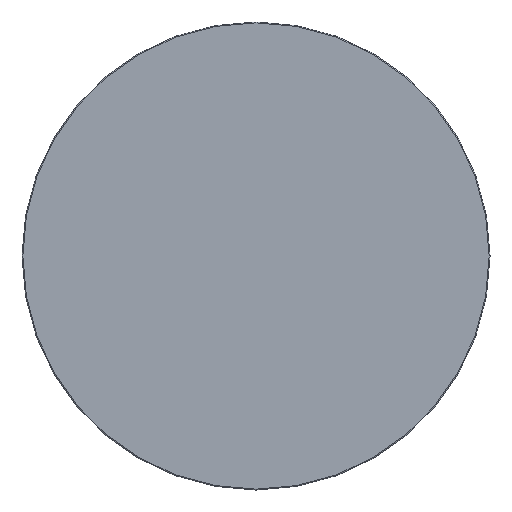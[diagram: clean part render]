
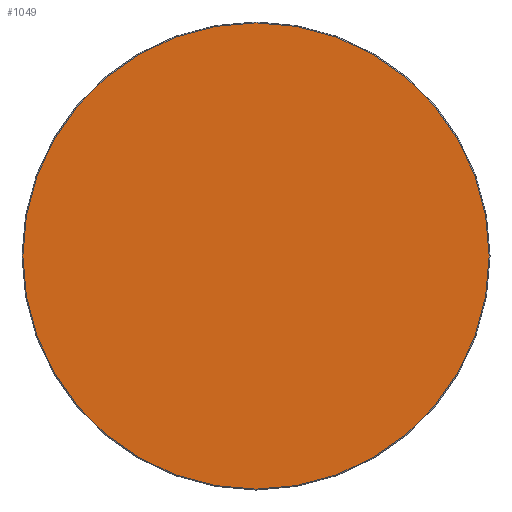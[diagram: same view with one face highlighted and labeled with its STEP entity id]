
A CAD part, left-side view. The second image highlights one B-rep face of the part: STEP entity #1049.
In plain terms, the highlighted planar face has unit normal (-1, 0, 0).
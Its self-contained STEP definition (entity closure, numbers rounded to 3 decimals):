
#1026=CARTESIAN_POINT('',(0.0,274.0,0.0));
#1027=VERTEX_POINT('',#1026);
#1028=CARTESIAN_POINT('',(0.0,0.0,0.0));
#1029=DIRECTION('',(1.0,0.0,0.0));
#1030=DIRECTION('',(0.0,-1.0,0.0));
#1031=AXIS2_PLACEMENT_3D('',#1028,#1029,#1030);
#1032=CIRCLE('',#1031,274.0);
#1033=EDGE_CURVE('',#1027,#1027,#1032,.T.);
#1041=CARTESIAN_POINT('',(0.0,195.319,0.));
#1042=DIRECTION('',(-1.0,0.0,0.0));
#1043=DIRECTION('',(0.0,0.0,1.0));
#1044=AXIS2_PLACEMENT_3D('',#1041,#1042,#1043);
#1045=PLANE('',#1044);
#1046=ORIENTED_EDGE('',*,*,#1033,.F.);
#1047=EDGE_LOOP('',(#1046));
#1048=FACE_OUTER_BOUND('',#1047,.T.);
#1049=ADVANCED_FACE('',(#1048),#1045,.T.);
